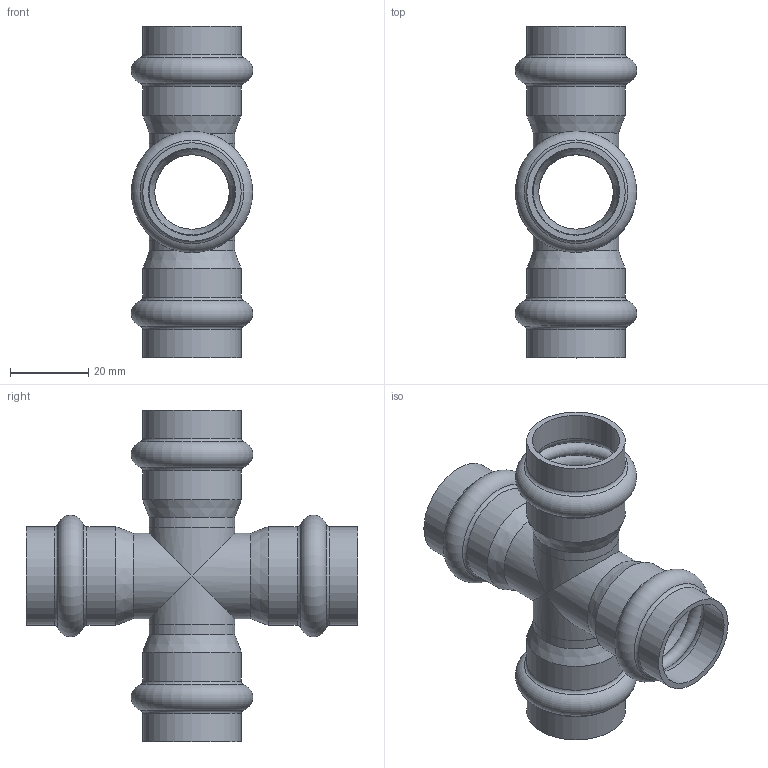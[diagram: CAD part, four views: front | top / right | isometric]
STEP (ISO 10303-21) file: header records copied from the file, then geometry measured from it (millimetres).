
FILE_DESCRIPTION(('STEP AP203'), '1');
FILE_NAME('ÂÐ.302669.010.000 ÑÁ - VTi.941.I.002222 Êðåñò. Äó22', '2024-02-29T12:43:21', ('User'), ('Vesta'), 'C3D Converter', 'C3D Toolkit', '');
FILE_SCHEMA(('CONFIG_CONTROL_DESIGN'));
Length unit declared in the file: millimetre
Products named in the file (4): ВР.302669.010.000 СБ; ВР.735542.007; ВР.735542.003
Assembly tree (7 placements, depth 2):
  ВР.302669.010.000 СБ
    ВР.735542.007
    ВР.735542.003  x2
    (unnamed)  x4
Bounding box: 31.1 x 85 x 85 mm (x, y, z)
Volume: 19846.2 mm3; surface area: 27441 mm2
Topology: 7 solids, 7 shells, 72 faces, 146 edges, 78 vertices
Faces by surface type: cylinder 28, torus 28, plane 8, cone 8
Full cylindrical faces by diameter (mm): 19.1 x6, 22 x6, 22.3 x8, 25.2 x8
Entity records: 1885 total; most frequent: CARTESIAN_POINT 223, DIRECTION 218, ORIENTED_EDGE 124, AXIS2_PLACEMENT_3D 109, EDGE_LOOP 104, FACE_OUTER_BOUND 84, EDGE_CURVE 62, VERTEX_POINT 58
